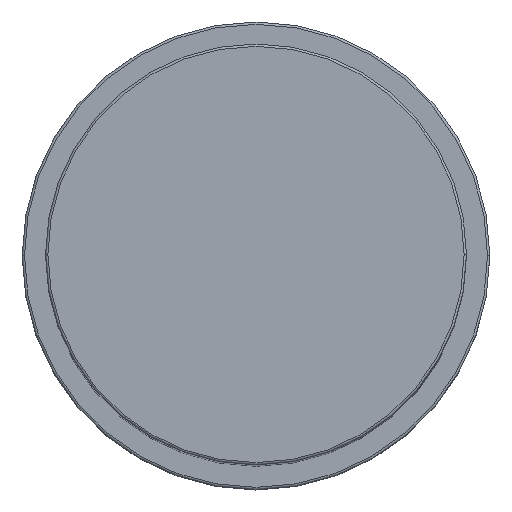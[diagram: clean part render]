
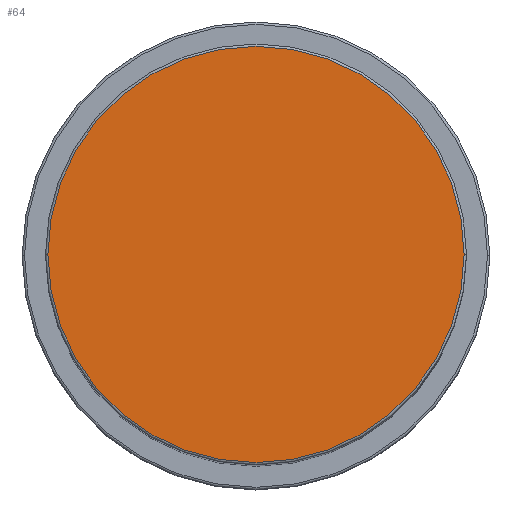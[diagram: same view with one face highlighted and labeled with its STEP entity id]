
A CAD part, top view. The second image highlights one B-rep face of the part: STEP entity #64.
In plain terms, the highlighted planar face has unit normal (0, 0, 1).
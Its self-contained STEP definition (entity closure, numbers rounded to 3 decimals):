
#64 = ADVANCED_FACE ( 'NONE', ( #1252 ), #226, .T. ) ;
#100 = CIRCLE ( 'NONE', #972, 44.5 ) ;
#117 = ORIENTED_EDGE ( 'NONE', *, *, #1109, .T. ) ;
#189 = VERTEX_POINT ( 'NONE', #1522 ) ;
#226 = PLANE ( 'NONE',  #1637 ) ;
#327 = EDGE_LOOP ( 'NONE', ( #117, #1112 ) ) ;
#360 = DIRECTION ( 'NONE',  ( 0., 0., 1. ) ) ;
#466 = AXIS2_PLACEMENT_3D ( 'NONE', #775, #1051, #1421 ) ;
#538 = CARTESIAN_POINT ( 'NONE',  ( 44.5, 0., 189. ) ) ;
#552 = VERTEX_POINT ( 'NONE', #538 ) ;
#586 = DIRECTION ( 'NONE',  ( 0., 0., 1. ) ) ;
#710 = DIRECTION ( 'NONE',  ( 1., 0., 0. ) ) ;
#775 = CARTESIAN_POINT ( 'NONE',  ( 0., 0., 189. ) ) ;
#931 = EDGE_CURVE ( 'NONE', #189, #552, #100, .T. ) ;
#972 = AXIS2_PLACEMENT_3D ( 'NONE', #1226, #586, #710 ) ;
#1051 = DIRECTION ( 'NONE',  ( 0., 0., 1. ) ) ;
#1109 = EDGE_CURVE ( 'NONE', #552, #189, #1159, .T. ) ;
#1112 = ORIENTED_EDGE ( 'NONE', *, *, #931, .T. ) ;
#1159 = CIRCLE ( 'NONE', #466, 44.5 ) ;
#1226 = CARTESIAN_POINT ( 'NONE',  ( 0., 0., 189. ) ) ;
#1237 = CARTESIAN_POINT ( 'NONE',  ( 0., 0., 189. ) ) ;
#1252 = FACE_OUTER_BOUND ( 'NONE', #327, .T. ) ;
#1364 = DIRECTION ( 'NONE',  ( 1., 0., 0. ) ) ;
#1421 = DIRECTION ( 'NONE',  ( 1., 0., 0. ) ) ;
#1522 = CARTESIAN_POINT ( 'NONE',  ( -44.5, 0., 189. ) ) ;
#1637 = AXIS2_PLACEMENT_3D ( 'NONE', #1237, #360, #1364 ) ;
